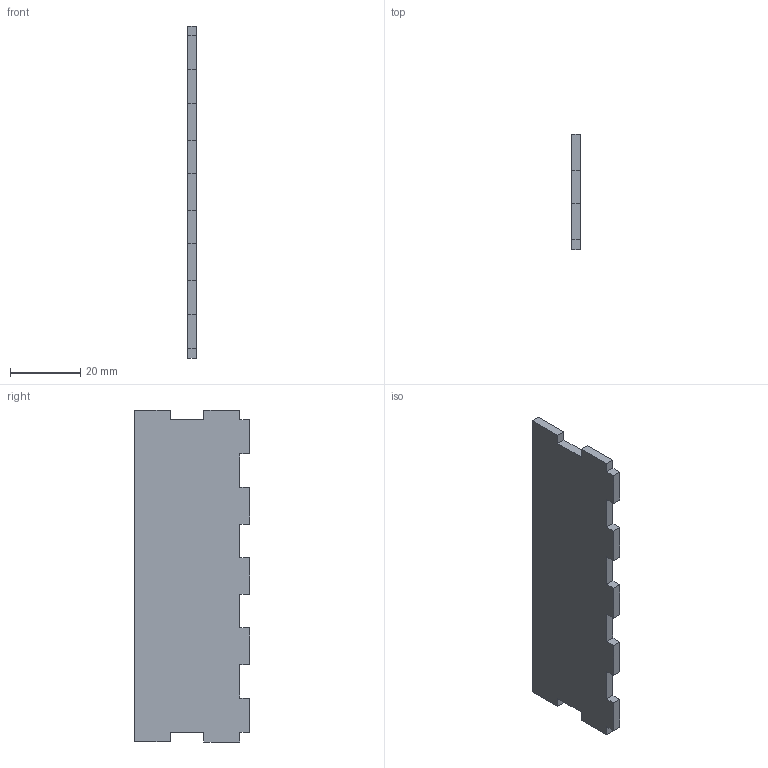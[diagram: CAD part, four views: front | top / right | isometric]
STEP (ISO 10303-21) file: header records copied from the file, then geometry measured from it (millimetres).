
FILE_DESCRIPTION (( 'STEP AP214' ), '1' );
FILE_NAME ('shortsideboxie2nopin.STEP', '2025-06-15T00:40:22', ( '' ), ( '' ), 'SwSTEP 2.0', 'SolidWorks 2024', '' );
FILE_SCHEMA (( 'AUTOMOTIVE_DESIGN' ));
Length unit declared in the file: millimetre
Products named in the file (1): shortsideboxie2nopin
Bounding box: 2.5 x 32.8 x 94.6 mm (x, y, z)
Volume: 7316.9 mm3; surface area: 6574.5 mm2
Topology: 1 solids, 1 shells, 34 faces, 96 edges, 64 vertices
Faces by surface type: plane 34
Entity records: 1103 total; most frequent: CARTESIAN_POINT 195, ORIENTED_EDGE 192, DIRECTION 166, VECTOR 96, LINE 96, EDGE_CURVE 96, VERTEX_POINT 64, AXIS2_PLACEMENT_3D 35
